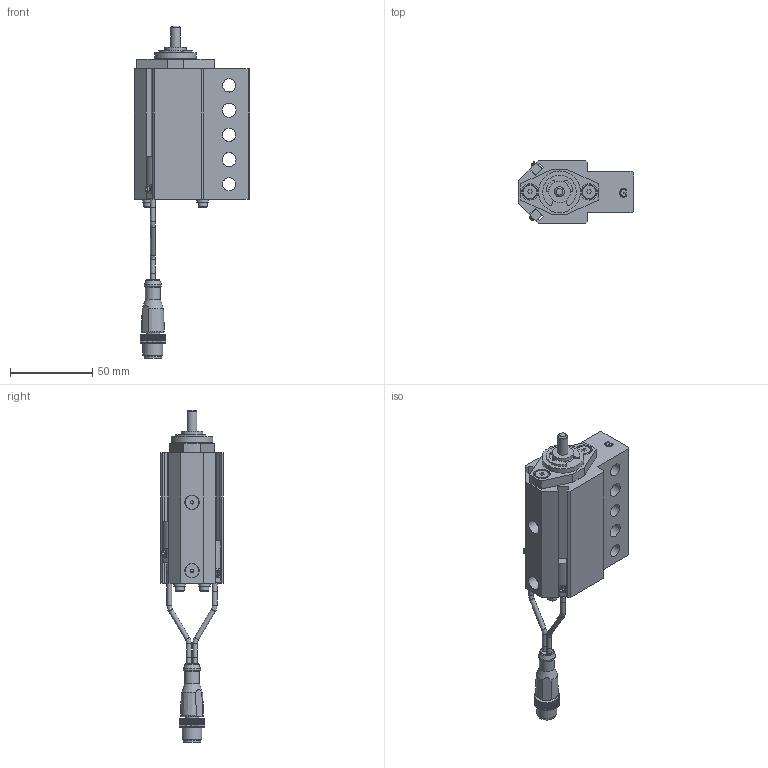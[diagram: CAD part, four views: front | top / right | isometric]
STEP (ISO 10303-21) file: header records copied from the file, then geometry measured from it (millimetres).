
FILE_DESCRIPTION(/* description */ ('NAAMS FLOATING MICRO PIN'),/* implementation_level */ '2;1');
FILE_NAME(/* name */ 'C:\Vault Workspace\CAD\Welker\Shot Pin\NMP\NMP060012EGNL3.stp',/* time_stamp */ '2021-01-28T11:32:34-05:00',/* author */ ('WELKER'),/* organization */ (''),/* preprocessor_version */ 'ST-DEVELOPER v18.1',/* originating_system */ 'Autodesk Inventor 2020',/* authorisation */ '');
FILE_SCHEMA (('AUTOMOTIVE_DESIGN { 1 0 10303 214 3 1 1 }'));
Length unit declared in the file: millimetre
Products named in the file (16): NMPL01; NMP L3 SWITCH; L3 Connector; L3 Sensor 1; L3 Sensor 2; L3 Sensor cable; L3 Sensor cable 2; M3X0.5-8 SHCS; NL3; NMPE06; NMPE03; NMPE04-DIA-LENGTH; 985432A218; NMPE01G-PORT; RMPE02; M5X5 SHOULDER
Assembly tree (22 placements, depth 3):
  NMPL01
    NMP L3 SWITCH
      L3 Connector
      L3 Sensor 1
      L3 Sensor 2
      L3 Sensor cable
      L3 Sensor cable 2
    M3X0.5-8 SHCS  x4
    NL3  x4
    NMPE06
    NMPE03
    NMPE04-DIA-LENGTH
    985432A218
    NMPE01G-PORT
    RMPE02
    M5X5 SHOULDER  x2
Bounding box: 70 x 38.1 x 201.52 mm (x, y, z)
Volume: 131189.9 mm3; surface area: 49255.4 mm2
Topology: 21 solids, 21 shells, 760 faces, 2087 edges, 1399 vertices
Faces by surface type: plane 547, cylinder 149, cone 35, bspline 16, torus 11, sphere 2
Full cylindrical faces by diameter (mm): 2 x2, 2.459 x4, 2.9 x10, 3 x5, 3.242 x2, 3.4 x4, 4 x2, 5 x6, 5.5 x4, 6 x1, 6.647 x2, 7 x4, 8 x5, 8.3 x2, 8.5 x2, 9 x3, 10 x3, 10.4 x1, 10.5 x1, 12 x1, 13 x3, 16 x2, 19.05 x3, 21 x1, 22.5 x1, 23.673 x1, 24 x1, 25.4 x1, 25.5 x1, 26.5 x1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
Entity records: 23755 total; most frequent: CARTESIAN_POINT 4682, ORIENTED_EDGE 3864, DIRECTION 3765, EDGE_CURVE 1932, LINE 1391, VECTOR 1391, VERTEX_POINT 1304, AXIS2_PLACEMENT_3D 1187
